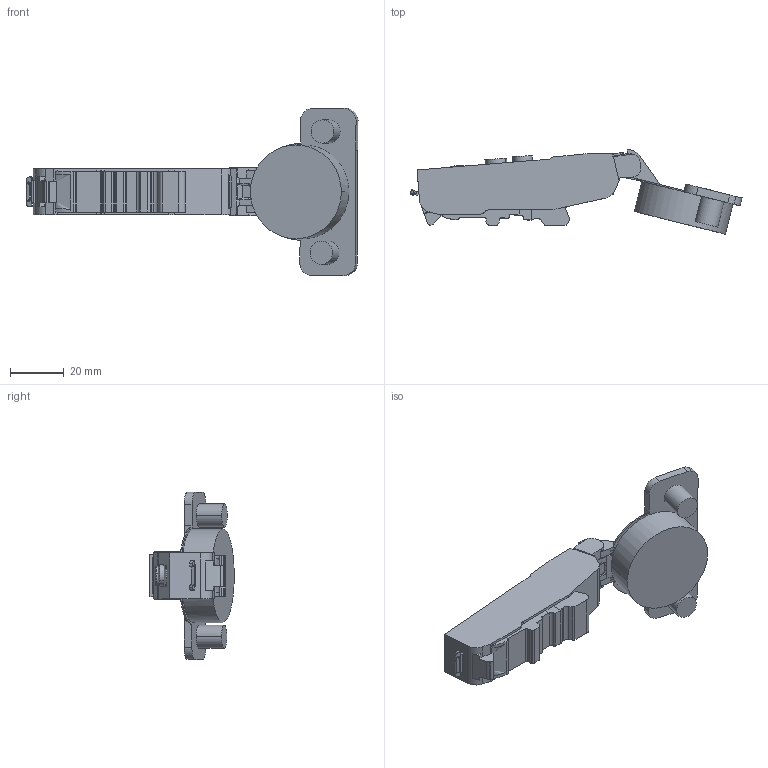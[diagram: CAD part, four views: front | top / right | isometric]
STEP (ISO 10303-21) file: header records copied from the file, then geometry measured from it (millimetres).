
FILE_DESCRIPTION (( 'STEP AP203' ), '1' );
FILE_NAME ('C81B875NFAB DTC 3D OPEN.STEP', '2024-07-24T08:11:49', ( '微软用户' ), ( '微软中国' ), 'SwSTEP 2.0', 'SolidWorks 2021', '' );
FILE_SCHEMA (( 'CONFIG_CONTROL_DESIGN' ));
Length unit declared in the file: millimetre
Products named in the file (1): C81B875NFAB DTC 3D OPEN
Bounding box: 123.23 x 31.32 x 62.14 mm (x, y, z)
Volume: 42811.5 mm3; surface area: 12910.5 mm2
Topology: 1 solids, 1 shells, 334 faces, 976 edges, 648 vertices
Faces by surface type: cylinder 149, plane 142, bspline 19, torus 18, cone 6
Entity records: 12153 total; most frequent: CARTESIAN_POINT 3383, ORIENTED_EDGE 1952, DIRECTION 1717, EDGE_CURVE 976, VERTEX_POINT 648, AXIS2_PLACEMENT_3D 606, LINE 505, VECTOR 505
